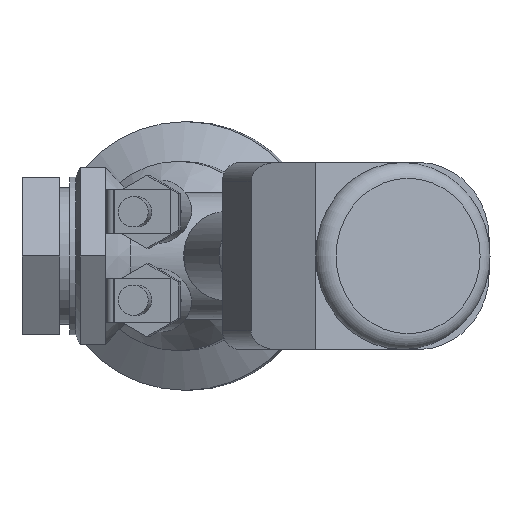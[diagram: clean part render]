
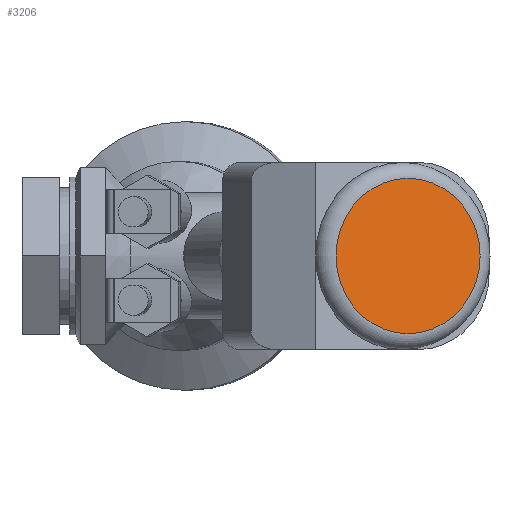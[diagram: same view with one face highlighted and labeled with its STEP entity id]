
A CAD part, front view. The second image highlights one B-rep face of the part: STEP entity #3206.
In plain terms, the highlighted planar face has unit normal (0.375, -0.927, 0).
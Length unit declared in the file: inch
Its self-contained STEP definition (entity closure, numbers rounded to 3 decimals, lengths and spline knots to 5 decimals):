
#162=CIRCLE('',#3549,0.61577);
#163=CIRCLE('',#3550,0.61577);
#347=FACE_OUTER_BOUND('',#532,.T.);
#532=EDGE_LOOP('',(#2206,#2207));
#1305=VERTEX_POINT('',#5276);
#1306=VERTEX_POINT('',#5277);
#1648=EDGE_CURVE('',#1305,#1306,#162,.T.);
#1649=EDGE_CURVE('',#1306,#1305,#163,.T.);
#2206=ORIENTED_EDGE('',*,*,#1648,.T.);
#2207=ORIENTED_EDGE('',*,*,#1649,.T.);
#2887=PLANE('',#3552);
#3206=ADVANCED_FACE('',(#347),#2887,.T.);
#3549=AXIS2_PLACEMENT_3D('',#5278,#4095,#4096);
#3550=AXIS2_PLACEMENT_3D('',#5279,#4097,#4098);
#3552=AXIS2_PLACEMENT_3D('',#5281,#4101,#4102);
#4095=DIRECTION('center_axis',(0.375,-0.927,0.));
#4096=DIRECTION('ref_axis',(0.927,0.375,0.));
#4097=DIRECTION('center_axis',(0.375,-0.927,0.));
#4098=DIRECTION('ref_axis',(0.927,0.375,0.));
#4101=DIRECTION('center_axis',(0.375,-0.927,0.));
#4102=DIRECTION('ref_axis',(0.,0.,-1.));
#5276=CARTESIAN_POINT('',(1.03314,-4.2009,0.));
#5277=CARTESIAN_POINT('',(1.60408,-3.97023,0.61577));
#5278=CARTESIAN_POINT('Origin',(1.60408,-3.97023,0.));
#5279=CARTESIAN_POINT('Origin',(1.60408,-3.97023,0.));
#5281=CARTESIAN_POINT('Origin',(1.60408,-3.97023,0.));
